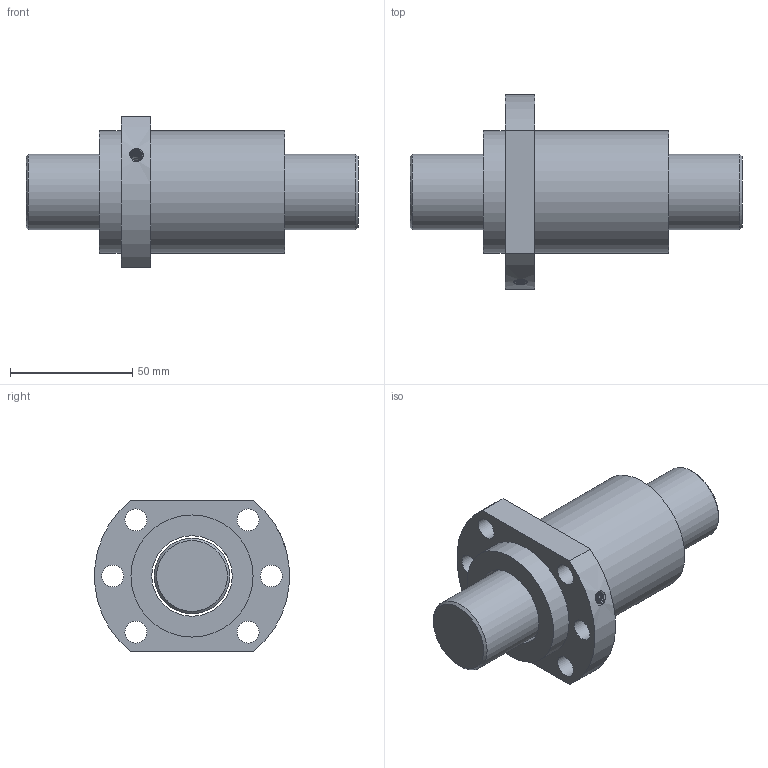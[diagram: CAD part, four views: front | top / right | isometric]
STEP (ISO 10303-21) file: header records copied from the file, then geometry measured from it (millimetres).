
FILE_DESCRIPTION(/* description */ ('Unknown','CAx-IF Rec.Pracs.---Representation and Presentation of Product Manufacturing Information (PMI)---4.0---2014-10-13','CAx-IF Rec.Pracs.---3D Tessellated Geometry---0.4---2014-09-14','2;1'),/* implementation_level */ '2;1');
FILE_NAME(/* name */ 'SFH3220-2.8',/* time_stamp */ '2020-12-07T15:53:28+08:00',/* author */ ('Unknown'),/* organization */ ('Unknown'),/* preprocessor_version */ 'ST-DEVELOPER v16.7',/* originating_system */ 'Solid Edge',/* authorisation */ 'Unknown');
FILE_SCHEMA (('AP242_MANAGED_MODEL_BASED_3D_ENGINEERING_MIM_LF { 1 0 10303 442 1 1 4 }'));
Length unit declared in the file: millimetre
Products named in the file (1): SFH3220-2.8
Bounding box: 136 x 79.74 x 62 mm (x, y, z)
Volume: 211115.3 mm3; surface area: 44229.4 mm2
Topology: 2 solids, 2 shells, 30 faces, 68 edges, 44 vertices
Faces by surface type: cylinder 16, plane 9, cone 3, bspline 2
Full cylindrical faces by diameter (mm): 4 x1, 4.917 x1, 9 x6, 31 x1, 33 x1, 50 x2
Entity records: 2933 total; most frequent: CARTESIAN_POINT 2231, DIRECTION 134, ORIENTED_EDGE 100, AXIS2_PLACEMENT_3D 64, EDGE_LOOP 63, FACE_BOUND 63, EDGE_CURVE 50, VERTEX_POINT 41
